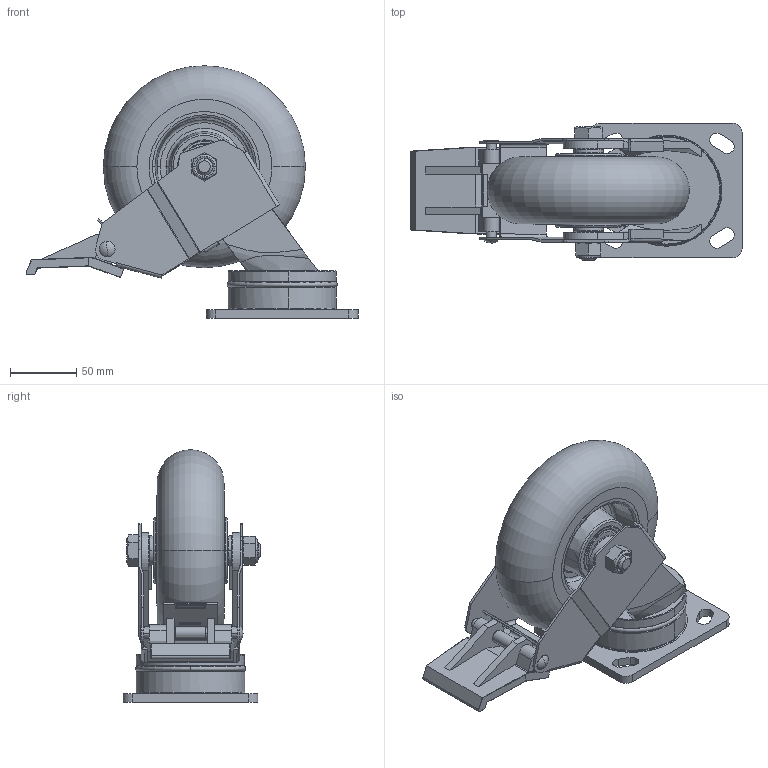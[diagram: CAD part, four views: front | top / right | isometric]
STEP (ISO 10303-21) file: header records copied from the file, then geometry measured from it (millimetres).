
FILE_DESCRIPTION((''),'2;1');
FILE_NAME('4KBC60JX6317UF_ASM','2024-07-12T',('durauser802'),(''),'CREO PARAMETRIC BY PTC INC, 2015200','CREO PARAMETRIC BY PTC INC, 2015200','');
FILE_SCHEMA(('AUTOMOTIVE_DESIGN { 1 0 10303 214 1 1 1 1 }'));
Length unit declared in the file: inch
Products named in the file (13): 4KZZ60JZ8317YY; UNIVF60J_FRAME; UNIVF60J_PEDAL; UNIVF80J_SPRING; RIVET; UNIVF60J_ASM; AXLE; 1NUT; BC60JX63; 6203BEARING; TOPHAT_05_6203; BC60JX63_ASM; 4KBC60JX6317UF_ASM
Assembly tree (14 placements, depth 3):
  4KBC60JX6317UF_ASM
    4KZZ60JZ8317YY
    UNIVF60J_ASM
      UNIVF60J_FRAME
      UNIVF60J_PEDAL
      UNIVF80J_SPRING
      RIVET
    AXLE
    1NUT
    BC60JX63_ASM
      BC60JX63
      6203BEARING  x2
      TOPHAT_05_6203  x2
Bounding box: 250.45 x 103.84 x 190.5 mm (x, y, z)
Volume: 1061101.9 mm3; surface area: 229121 mm2
Topology: 84 solids, 85 shells, 844 faces, 1881 edges, 1141 vertices
Faces by surface type: plane 351, cylinder 213, torus 166, sphere 70, cone 36, bspline 8
Entity records: 25650 total; most frequent: CARTESIAN_POINT 4268, DIRECTION 3489, ORIENTED_EDGE 2998, PRESENTATION_STYLE_ASSIGNMENT 1576, STYLED_ITEM 1569, CURVE_STYLE 1499, EDGE_CURVE 1499, AXIS2_PLACEMENT_3D 1391
